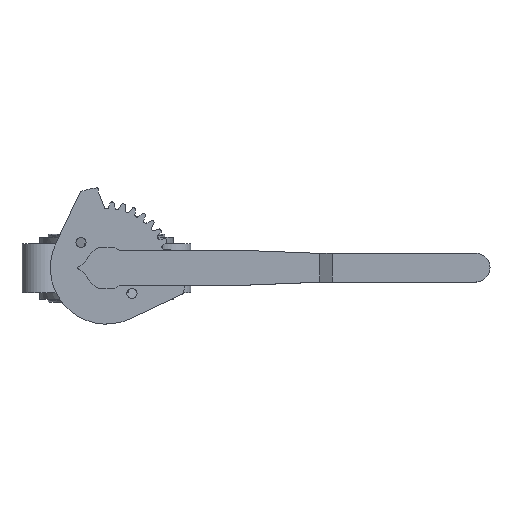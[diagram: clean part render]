
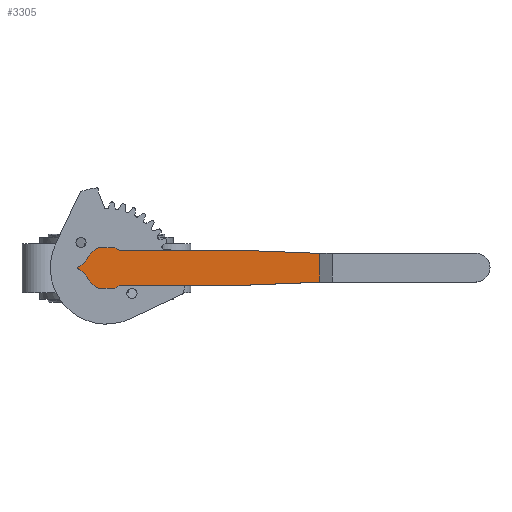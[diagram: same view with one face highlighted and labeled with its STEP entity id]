
A CAD part, top view. The second image highlights one B-rep face of the part: STEP entity #3305.
In plain terms, the highlighted planar face has unit normal (0, 0, 1) as drawn and (0, 0, -1) by its records, which use the part's own axes.
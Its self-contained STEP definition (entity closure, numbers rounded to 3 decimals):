
#40 = VECTOR ( 'NONE', #9381, 1000. ) ;
#114 = CARTESIAN_POINT ( 'NONE',  ( -21.208, 8.901, 5. ) ) ;
#205 = AXIS2_PLACEMENT_3D ( 'NONE', #5302, #6171, #6793 ) ;
#271 = AXIS2_PLACEMENT_3D ( 'NONE', #2186, #9094, #4456 ) ;
#311 = CARTESIAN_POINT ( 'NONE',  ( 0., 0., 5. ) ) ;
#405 = DIRECTION ( 'NONE',  ( 0., 0., -1. ) ) ;
#455 = VERTEX_POINT ( 'NONE', #5013 ) ;
#557 = CARTESIAN_POINT ( 'NONE',  ( 98., 12., 5. ) ) ;
#583 = EDGE_CURVE ( 'NONE', #2878, #8004, #8494, .T. ) ;
#631 = DIRECTION ( 'NONE',  ( -0.999, 0.04, 0. ) ) ;
#650 = EDGE_CURVE ( 'NONE', #9230, #5700, #4933, .T. ) ;
#654 = CIRCLE ( 'NONE', #7862, 8. ) ;
#679 = ORIENTED_EDGE ( 'NONE', *, *, #4938, .F. ) ;
#760 = VECTOR ( 'NONE', #1053, 1000. ) ;
#833 = EDGE_CURVE ( 'NONE', #5700, #1049, #999, .T. ) ;
#999 = LINE ( 'NONE', #1782, #5398 ) ;
#1049 = VERTEX_POINT ( 'NONE', #6568 ) ;
#1053 = DIRECTION ( 'NONE',  ( -0.906, 0.423, 0. ) ) ;
#1078 = LINE ( 'NONE', #8725, #8572 ) ;
#1195 = EDGE_CURVE ( 'NONE', #8861, #3665, #654, .T. ) ;
#1235 = VERTEX_POINT ( 'NONE', #9066 ) ;
#1271 = AXIS2_PLACEMENT_3D ( 'NONE', #4823, #405, #5586 ) ;
#1404 = VECTOR ( 'NONE', #8436, 1000. ) ;
#1435 = EDGE_CURVE ( 'NONE', #2878, #4116, #5266, .T. ) ;
#1615 = AXIS2_PLACEMENT_3D ( 'NONE', #9135, #3312, #8680 ) ;
#1631 = DIRECTION ( 'NONE',  ( 0., -1., 0. ) ) ;
#1782 = CARTESIAN_POINT ( 'NONE',  ( 0.636, -15.895, 5. ) ) ;
#1787 = ORIENTED_EDGE ( 'NONE', *, *, #5101, .T. ) ;
#2031 = DIRECTION ( 'NONE',  ( -1., 0., 0. ) ) ;
#2063 = VERTEX_POINT ( 'NONE', #4278 ) ;
#2079 = DIRECTION ( 'NONE',  ( -1., 0., 0. ) ) ;
#2155 = DIRECTION ( 'NONE',  ( 0., 0., 1. ) ) ;
#2186 = CARTESIAN_POINT ( 'NONE',  ( 0., 0., 5. ) ) ;
#2496 = ORIENTED_EDGE ( 'NONE', *, *, #650, .T. ) ;
#2531 = CARTESIAN_POINT ( 'NONE',  ( -5.385, -14., 5. ) ) ;
#2575 = EDGE_CURVE ( 'NONE', #2063, #9232, #1078, .T. ) ;
#2658 = CARTESIAN_POINT ( 'NONE',  ( -13.831, 5.805, 5. ) ) ;
#2663 = CARTESIAN_POINT ( 'NONE',  ( 5.385, 14., 5. ) ) ;
#2783 = CARTESIAN_POINT ( 'NONE',  ( 0.636, 15.895, 5. ) ) ;
#2878 = VERTEX_POINT ( 'NONE', #8715 ) ;
#2909 = ORIENTED_EDGE ( 'NONE', *, *, #7066, .T. ) ;
#2990 = CARTESIAN_POINT ( 'NONE',  ( -13.831, -5.805, 5. ) ) ;
#3062 = CARTESIAN_POINT ( 'NONE',  ( -3.816, 8.184, 5. ) ) ;
#3108 = EDGE_LOOP ( 'NONE', ( #5866, #4170, #2909, #8874, #6655, #5662, #6903, #679, #8485, #3991, #1787, #3626, #3887, #6107, #4253, #2496 ) ) ;
#3305 = ADVANCED_FACE ( 'NONE', ( #3375 ), #3837, .T. ) ;
#3312 = DIRECTION ( 'NONE',  ( 0., 0., -1. ) ) ;
#3375 = FACE_OUTER_BOUND ( 'NONE', #3108, .T. ) ;
#3522 = VERTEX_POINT ( 'NONE', #9548 ) ;
#3626 = ORIENTED_EDGE ( 'NONE', *, *, #8098, .F. ) ;
#3658 = AXIS2_PLACEMENT_3D ( 'NONE', #5159, #5937, #5262 ) ;
#3665 = VERTEX_POINT ( 'NONE', #2658 ) ;
#3800 = VECTOR ( 'NONE', #2079, 1000. ) ;
#3837 = PLANE ( 'NONE',  #1615 ) ;
#3887 = ORIENTED_EDGE ( 'NONE', *, *, #3923, .T. ) ;
#3905 = VECTOR ( 'NONE', #631, 1000. ) ;
#3923 = EDGE_CURVE ( 'NONE', #6421, #3522, #3965, .T. ) ;
#3965 = CIRCLE ( 'NONE', #4340, 15. ) ;
#3991 = ORIENTED_EDGE ( 'NONE', *, *, #1195, .T. ) ;
#4020 = CARTESIAN_POINT ( 'NONE',  ( -3.816, -8.184, 5. ) ) ;
#4116 = VERTEX_POINT ( 'NONE', #8787 ) ;
#4166 = DIRECTION ( 'NONE',  ( -1., 0., 0. ) ) ;
#4170 = ORIENTED_EDGE ( 'NONE', *, *, #6442, .T. ) ;
#4253 = ORIENTED_EDGE ( 'NONE', *, *, #9063, .F. ) ;
#4258 = LINE ( 'NONE', #2783, #3905 ) ;
#4278 = CARTESIAN_POINT ( 'NONE',  ( 5.385, -14., 5. ) ) ;
#4340 = AXIS2_PLACEMENT_3D ( 'NONE', #311, #5464, #2031 ) ;
#4401 = DIRECTION ( 'NONE',  ( -1., 0., 0. ) ) ;
#4456 = DIRECTION ( 'NONE',  ( -1., 0., 0. ) ) ;
#4606 = LINE ( 'NONE', #5028, #5918 ) ;
#4665 = CARTESIAN_POINT ( 'NONE',  ( 148., 10., 5. ) ) ;
#4675 = CARTESIAN_POINT ( 'NONE',  ( -17.827, 1.65, 5. ) ) ;
#4823 = CARTESIAN_POINT ( 'NONE',  ( 0., 0., 5. ) ) ;
#4840 = CIRCLE ( 'NONE', #9178, 15. ) ;
#4933 = LINE ( 'NONE', #7644, #7778 ) ;
#4935 = DIRECTION ( 'NONE',  ( -1., 0., 0. ) ) ;
#4938 = EDGE_CURVE ( 'NONE', #1235, #4116, #6446, .T. ) ;
#5013 = CARTESIAN_POINT ( 'NONE',  ( -5.385, 14., 5. ) ) ;
#5028 = CARTESIAN_POINT ( 'NONE',  ( 0., 12., 5. ) ) ;
#5060 = EDGE_CURVE ( 'NONE', #8861, #1235, #6692, .T. ) ;
#5101 = EDGE_CURVE ( 'NONE', #3665, #455, #7384, .T. ) ;
#5159 = CARTESIAN_POINT ( 'NONE',  ( -19., 0., 5. ) ) ;
#5262 = DIRECTION ( 'NONE',  ( -1., 0., 0. ) ) ;
#5266 = LINE ( 'NONE', #4020, #760 ) ;
#5302 = CARTESIAN_POINT ( 'NONE',  ( -21.208, -8.901, 5. ) ) ;
#5373 = CARTESIAN_POINT ( 'NONE',  ( 9., -12., 5. ) ) ;
#5398 = VECTOR ( 'NONE', #8559, 1000. ) ;
#5464 = DIRECTION ( 'NONE',  ( 0., 0., -1. ) ) ;
#5586 = DIRECTION ( 'NONE',  ( -1., 0., 0. ) ) ;
#5662 = ORIENTED_EDGE ( 'NONE', *, *, #583, .F. ) ;
#5700 = VERTEX_POINT ( 'NONE', #5739 ) ;
#5708 = DIRECTION ( 'NONE',  ( -1., 0., 0. ) ) ;
#5739 = CARTESIAN_POINT ( 'NONE',  ( 148., -10., 5. ) ) ;
#5866 = ORIENTED_EDGE ( 'NONE', *, *, #833, .T. ) ;
#5877 = EDGE_CURVE ( 'NONE', #9232, #8004, #8960, .T. ) ;
#5918 = VECTOR ( 'NONE', #4935, 1000. ) ;
#5937 = DIRECTION ( 'NONE',  ( 0., 0., 1. ) ) ;
#6107 = ORIENTED_EDGE ( 'NONE', *, *, #7037, .F. ) ;
#6171 = DIRECTION ( 'NONE',  ( 0., 0., -1. ) ) ;
#6421 = VERTEX_POINT ( 'NONE', #2663 ) ;
#6442 = EDGE_CURVE ( 'NONE', #1049, #8051, #7467, .T. ) ;
#6445 = CARTESIAN_POINT ( 'NONE',  ( 0., -12., 5. ) ) ;
#6446 = CIRCLE ( 'NONE', #3658, 1. ) ;
#6568 = CARTESIAN_POINT ( 'NONE',  ( 98., -12., 5. ) ) ;
#6655 = ORIENTED_EDGE ( 'NONE', *, *, #5877, .T. ) ;
#6692 = LINE ( 'NONE', #3062, #40 ) ;
#6793 = DIRECTION ( 'NONE',  ( -1., 0., 0. ) ) ;
#6903 = ORIENTED_EDGE ( 'NONE', *, *, #1435, .T. ) ;
#7037 = EDGE_CURVE ( 'NONE', #9385, #3522, #4606, .T. ) ;
#7066 = EDGE_CURVE ( 'NONE', #8051, #2063, #4840, .T. ) ;
#7384 = CIRCLE ( 'NONE', #1271, 15. ) ;
#7467 = LINE ( 'NONE', #6445, #3800 ) ;
#7477 = LINE ( 'NONE', #7660, #1404 ) ;
#7644 = CARTESIAN_POINT ( 'NONE',  ( 148., -47.763, 5. ) ) ;
#7660 = CARTESIAN_POINT ( 'NONE',  ( 0., 14., 5. ) ) ;
#7778 = VECTOR ( 'NONE', #1631, 1000. ) ;
#7862 = AXIS2_PLACEMENT_3D ( 'NONE', #114, #2155, #4401 ) ;
#8004 = VERTEX_POINT ( 'NONE', #2990 ) ;
#8051 = VERTEX_POINT ( 'NONE', #5373 ) ;
#8098 = EDGE_CURVE ( 'NONE', #6421, #455, #7477, .T. ) ;
#8126 = CARTESIAN_POINT ( 'NONE',  ( 0., 0., 5. ) ) ;
#8436 = DIRECTION ( 'NONE',  ( -1., 0., 0. ) ) ;
#8485 = ORIENTED_EDGE ( 'NONE', *, *, #5060, .F. ) ;
#8494 = CIRCLE ( 'NONE', #205, 8. ) ;
#8559 = DIRECTION ( 'NONE',  ( -0.999, -0.04, 0. ) ) ;
#8572 = VECTOR ( 'NONE', #5708, 1000. ) ;
#8680 = DIRECTION ( 'NONE',  ( -1., 0., 0. ) ) ;
#8715 = CARTESIAN_POINT ( 'NONE',  ( -17.827, -1.65, 5. ) ) ;
#8716 = DIRECTION ( 'NONE',  ( 0., 0., -1. ) ) ;
#8725 = CARTESIAN_POINT ( 'NONE',  ( 0., -14., 5. ) ) ;
#8787 = CARTESIAN_POINT ( 'NONE',  ( -19.423, -0.906, 5. ) ) ;
#8861 = VERTEX_POINT ( 'NONE', #4675 ) ;
#8874 = ORIENTED_EDGE ( 'NONE', *, *, #2575, .T. ) ;
#8960 = CIRCLE ( 'NONE', #271, 15. ) ;
#9063 = EDGE_CURVE ( 'NONE', #9230, #9385, #4258, .T. ) ;
#9066 = CARTESIAN_POINT ( 'NONE',  ( -19.423, 0.906, 5. ) ) ;
#9094 = DIRECTION ( 'NONE',  ( 0., 0., -1. ) ) ;
#9135 = CARTESIAN_POINT ( 'NONE',  ( 0., 0., 5. ) ) ;
#9178 = AXIS2_PLACEMENT_3D ( 'NONE', #8126, #8716, #4166 ) ;
#9230 = VERTEX_POINT ( 'NONE', #4665 ) ;
#9232 = VERTEX_POINT ( 'NONE', #2531 ) ;
#9381 = DIRECTION ( 'NONE',  ( -0.906, -0.423, 0. ) ) ;
#9385 = VERTEX_POINT ( 'NONE', #557 ) ;
#9548 = CARTESIAN_POINT ( 'NONE',  ( 9., 12., 5. ) ) ;
